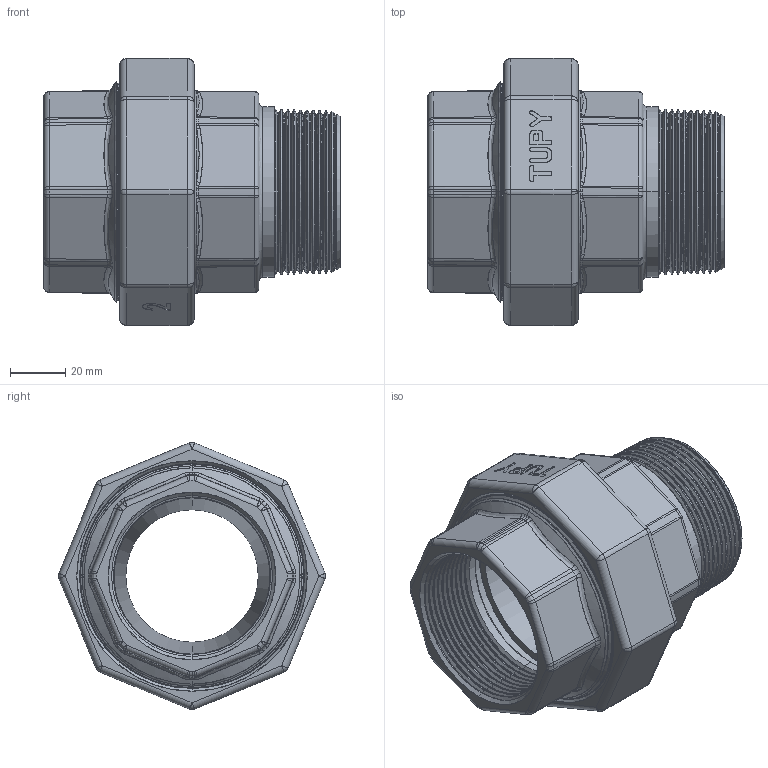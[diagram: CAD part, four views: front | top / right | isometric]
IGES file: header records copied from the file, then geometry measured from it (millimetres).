
Start section: SolidWorks IGES file using analytic representation for surfaces
Global section: file name: C:\Users\Joel Rosa\Desktop\Tubulação\12-65-X\12-65-010.IGS; native system: SolidWorks 2011; preprocessor: SolidWorks 2011; author: Joel Rosa; date: 130721.182322; units: millimetre
Bounding box: 107.5 x 97 x 97 mm (x, y, z)
Surface area: 80944.6 mm2 (no closed solid volume)
Topology: 0 solids, 0 shells, 731 faces, 5579 edges, 5573 vertices
Faces by surface type: bspline 474, revolution 257
